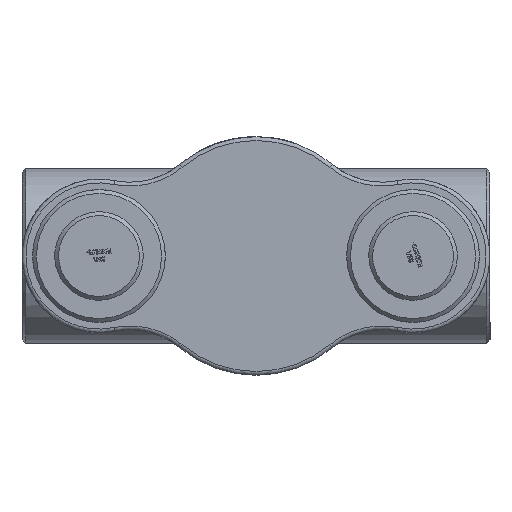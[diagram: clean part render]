
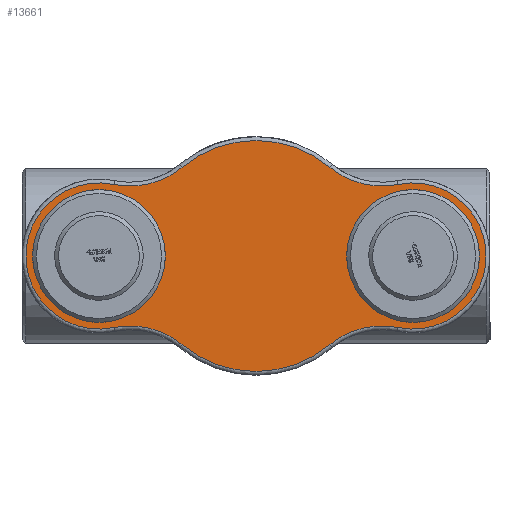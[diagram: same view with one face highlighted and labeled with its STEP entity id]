
A CAD part, front view. The second image highlights one B-rep face of the part: STEP entity #13661.
In plain terms, the highlighted planar face has unit normal (0, -1, 0) as drawn and (0, 0, -1) by its records, which use the part's own axes.
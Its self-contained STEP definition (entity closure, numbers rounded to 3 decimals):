
#3568=PLANE('',#14555);
#3942=FACE_BOUND('',#4853,.T.);
#3943=FACE_BOUND('',#4854,.T.);
#4047=FACE_OUTER_BOUND('',#4852,.T.);
#4852=EDGE_LOOP('',(#9440,#9441,#9442,#9443,#9444,#9445,#9446,#9447));
#4853=EDGE_LOOP('',(#9448));
#4854=EDGE_LOOP('',(#9449));
#5760=CIRCLE('',#14554,65.);
#5761=CIRCLE('',#14556,95.);
#5762=CIRCLE('',#14557,105.);
#5763=CIRCLE('',#14558,150.);
#5764=CIRCLE('',#14559,105.);
#5765=CIRCLE('',#14560,95.);
#5766=CIRCLE('',#14561,105.);
#5767=CIRCLE('',#14562,150.);
#5768=CIRCLE('',#14563,105.);
#5769=CIRCLE('',#14564,65.);
#5938=VERTEX_POINT('',#17779);
#5939=VERTEX_POINT('',#17782);
#5940=VERTEX_POINT('',#17783);
#5941=VERTEX_POINT('',#17785);
#5942=VERTEX_POINT('',#17787);
#5943=VERTEX_POINT('',#17789);
#5944=VERTEX_POINT('',#17791);
#5945=VERTEX_POINT('',#17793);
#5946=VERTEX_POINT('',#17795);
#5947=VERTEX_POINT('',#17798);
#7338=EDGE_CURVE('',#5938,#5938,#5760,.T.);
#7339=EDGE_CURVE('',#5939,#5940,#5761,.T.);
#7340=EDGE_CURVE('',#5941,#5939,#5762,.T.);
#7341=EDGE_CURVE('',#5942,#5941,#5763,.T.);
#7342=EDGE_CURVE('',#5943,#5942,#5764,.T.);
#7343=EDGE_CURVE('',#5944,#5943,#5765,.T.);
#7344=EDGE_CURVE('',#5945,#5944,#5766,.T.);
#7345=EDGE_CURVE('',#5946,#5945,#5767,.T.);
#7346=EDGE_CURVE('',#5940,#5946,#5768,.T.);
#7347=EDGE_CURVE('',#5947,#5947,#5769,.T.);
#9440=ORIENTED_EDGE('',*,*,#7339,.F.);
#9441=ORIENTED_EDGE('',*,*,#7340,.F.);
#9442=ORIENTED_EDGE('',*,*,#7341,.F.);
#9443=ORIENTED_EDGE('',*,*,#7342,.F.);
#9444=ORIENTED_EDGE('',*,*,#7343,.F.);
#9445=ORIENTED_EDGE('',*,*,#7344,.F.);
#9446=ORIENTED_EDGE('',*,*,#7345,.F.);
#9447=ORIENTED_EDGE('',*,*,#7346,.F.);
#9448=ORIENTED_EDGE('',*,*,#7347,.F.);
#9449=ORIENTED_EDGE('',*,*,#7338,.F.);
#13661=ADVANCED_FACE('',(#4047,#3942,#3943),#3568,.F.);
#14554=AXIS2_PLACEMENT_3D('',#17780,#15241,#15242);
#14555=AXIS2_PLACEMENT_3D('',#17781,#15243,#15244);
#14556=AXIS2_PLACEMENT_3D('',#17784,#15245,#15246);
#14557=AXIS2_PLACEMENT_3D('',#17786,#15247,#15248);
#14558=AXIS2_PLACEMENT_3D('',#17788,#15249,#15250);
#14559=AXIS2_PLACEMENT_3D('',#17790,#15251,#15252);
#14560=AXIS2_PLACEMENT_3D('',#17792,#15253,#15254);
#14561=AXIS2_PLACEMENT_3D('',#17794,#15255,#15256);
#14562=AXIS2_PLACEMENT_3D('',#17796,#15257,#15258);
#14563=AXIS2_PLACEMENT_3D('',#17797,#15259,#15260);
#14564=AXIS2_PLACEMENT_3D('',#17799,#15261,#15262);
#15241=DIRECTION('center_axis',(0.,0.,-1.));
#15242=DIRECTION('ref_axis',(1.,0.,0.));
#15243=DIRECTION('center_axis',(0.,0.,1.));
#15244=DIRECTION('ref_axis',(1.,0.,0.));
#15245=DIRECTION('center_axis',(0.,0.,1.));
#15246=DIRECTION('ref_axis',(-1.,0.,0.));
#15247=DIRECTION('center_axis',(0.,0.,-1.));
#15248=DIRECTION('ref_axis',(0.243,-0.97,0.));
#15249=DIRECTION('center_axis',(0.,0.,1.));
#15250=DIRECTION('ref_axis',(0.,1.,0.));
#15251=DIRECTION('center_axis',(0.,0.,-1.));
#15252=DIRECTION('ref_axis',(-0.243,-0.97,0.));
#15253=DIRECTION('center_axis',(0.,0.,1.));
#15254=DIRECTION('ref_axis',(1.,0.,0.));
#15255=DIRECTION('center_axis',(0.,0.,-1.));
#15256=DIRECTION('ref_axis',(-0.243,0.97,0.));
#15257=DIRECTION('center_axis',(0.,0.,1.));
#15258=DIRECTION('ref_axis',(0.,-1.,0.));
#15259=DIRECTION('center_axis',(0.,0.,-1.));
#15260=DIRECTION('ref_axis',(0.243,0.97,0.));
#15261=DIRECTION('center_axis',(0.,0.,-1.));
#15262=DIRECTION('ref_axis',(1.,0.,0.));
#17779=CARTESIAN_POINT('',(139.,0.,0.));
#17780=CARTESIAN_POINT('Origin',(204.,0.,0.));
#17781=CARTESIAN_POINT('Origin',(0.,0.,0.));
#17782=CARTESIAN_POINT('',(-184.684,93.016,0.));
#17783=CARTESIAN_POINT('',(-184.684,-93.016,0.));
#17784=CARTESIAN_POINT('Origin',(-204.,0.,0.));
#17785=CARTESIAN_POINT('',(-96.08,115.19,0.));
#17786=CARTESIAN_POINT('Origin',(-163.336,195.822,0.));
#17787=CARTESIAN_POINT('',(96.08,115.19,0.));
#17788=CARTESIAN_POINT('Origin',(0.,0.,0.));
#17789=CARTESIAN_POINT('',(184.684,93.016,0.));
#17790=CARTESIAN_POINT('Origin',(163.336,195.822,0.));
#17791=CARTESIAN_POINT('',(184.684,-93.016,0.));
#17792=CARTESIAN_POINT('Origin',(204.,0.,0.));
#17793=CARTESIAN_POINT('',(96.08,-115.19,0.));
#17794=CARTESIAN_POINT('Origin',(163.336,-195.822,0.));
#17795=CARTESIAN_POINT('',(-96.08,-115.19,0.));
#17796=CARTESIAN_POINT('Origin',(0.,0.,0.));
#17797=CARTESIAN_POINT('Origin',(-163.336,-195.822,0.));
#17798=CARTESIAN_POINT('',(-269.,0.,0.));
#17799=CARTESIAN_POINT('Origin',(-204.,0.,0.));
